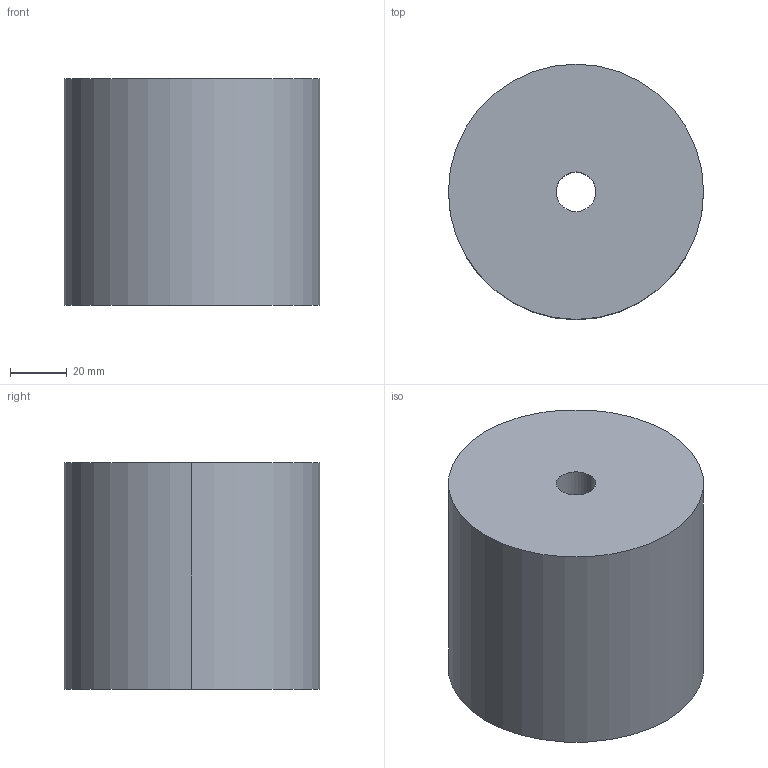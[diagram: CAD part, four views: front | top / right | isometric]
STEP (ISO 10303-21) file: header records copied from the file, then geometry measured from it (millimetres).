
FILE_DESCRIPTION(/* description */ (''),/* implementation_level */ '2;1');
FILE_NAME(/* name */ '3d_el90-14-80_03748_r00.stp',/* time_stamp */ '2011-01-10T14:15:45+09:00',/* author */ ('MISUMI'),/* organization */ (''),/* preprocessor_version */ 'ST-DEVELOPER v11',/* originating_system */ 'UGS - NX 5.0',/* authorisation */ '');
FILE_SCHEMA (('CONFIG_CONTROL_DESIGN'));
Length unit declared in the file: millimetre
Products named in the file (1): 3d_el90-14-80_03748_r00
Bounding box: 90 x 90 x 80 mm (x, y, z)
Volume: 496623 mm3; surface area: 38553.6 mm2
Topology: 1 solids, 1 shells, 6 faces, 12 edges, 8 vertices
Faces by surface type: cylinder 4, plane 2
Entity records: 254 total; most frequent: DIRECTION 34, CARTESIAN_POINT 27, ORIENTED_EDGE 24, AXIS2_PLACEMENT_3D 15, EDGE_CURVE 12, EDGE_LOOP 8, VERTEX_POINT 8, CIRCLE 8
